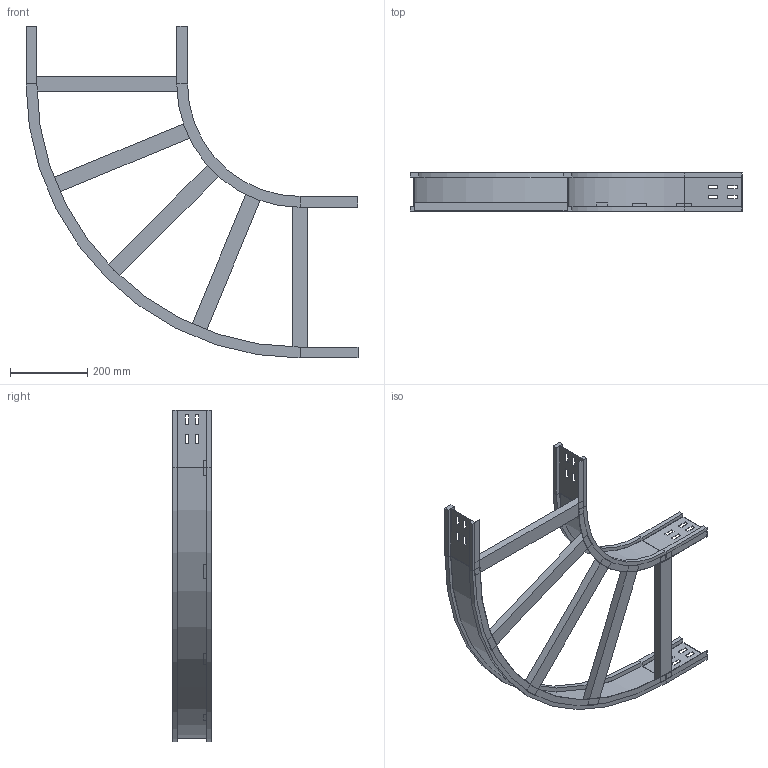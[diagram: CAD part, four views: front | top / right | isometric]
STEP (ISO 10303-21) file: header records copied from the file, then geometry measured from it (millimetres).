
FILE_DESCRIPTION (( 'STEP AP214' ), '1' );
FILE_NAME ('10S3D400.step', '2025-02-21T16:08:57', ( '' ), ( '' ), 'SwSTEP 2.0', 'SolidWorks 2023', '' );
FILE_SCHEMA (( 'AUTOMOTIVE_DESIGN' ));
Length unit declared in the file: millimetre
Products named in the file (4): 10S3D400; LONGH.ESTERNO 90°_H100_R300+400; TRAVERSINO_400; LONGH.INTERNO 90°_H100_R300
Assembly tree (7 placements, depth 2):
  10S3D400
    LONGH.INTERNO 90°_H100_R300
    LONGH.ESTERNO 90°_H100_R300+400
    TRAVERSINO_400  x5
Bounding box: 859 x 100 x 859 mm (x, y, z)
Volume: 2753514.8 mm3; surface area: 889564.5 mm2
Topology: 7 solids, 7 shells, 170 faces, 420 edges, 264 vertices
Faces by surface type: plane 158, cylinder 12
Entity records: 4493 total; most frequent: CARTESIAN_POINT 760, ORIENTED_EDGE 744, DIRECTION 708, EDGE_CURVE 372, LINE 348, VECTOR 348, VERTEX_POINT 232, AXIS2_PLACEMENT_3D 180
